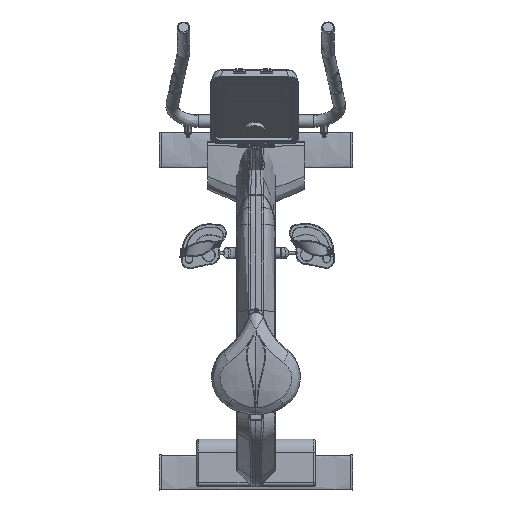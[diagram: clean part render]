
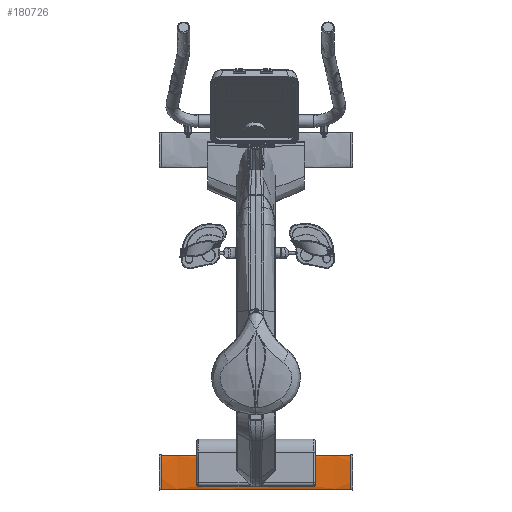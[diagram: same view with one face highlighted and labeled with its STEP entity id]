
A CAD part, top view. The second image highlights one B-rep face of the part: STEP entity #180726.
In plain terms, the highlighted free-form (B-spline) face has degree [3, 3] with [4, 4] control points.
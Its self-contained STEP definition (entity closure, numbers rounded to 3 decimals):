
#180627=CARTESIAN_POINT('',(255.563,-524.05,64.88));
#180628=VERTEX_POINT('',#180627);
#180629=CARTESIAN_POINT('',(255.563,-432.127,64.88));
#180630=VERTEX_POINT('',#180629);
#180631=CARTESIAN_POINT('',(255.563,-524.048,64.877));
#180632=CARTESIAN_POINT('',(255.563,-524.034,65.118));
#180633=CARTESIAN_POINT('',(255.563,-523.889,65.332));
#180634=CARTESIAN_POINT('',(255.563,-523.708,65.499));
#180635=CARTESIAN_POINT('',(255.563,-523.523,65.669));
#180636=CARTESIAN_POINT('',(255.563,-523.322,65.794));
#180637=CARTESIAN_POINT('',(255.563,-523.104,65.91));
#180638=CARTESIAN_POINT('',(255.563,-522.67,66.142));
#180639=CARTESIAN_POINT('',(255.563,-522.215,66.309));
#180640=CARTESIAN_POINT('',(255.563,-521.749,66.457));
#180641=CARTESIAN_POINT('',(255.563,-520.817,66.755));
#180642=CARTESIAN_POINT('',(255.563,-519.867,66.963));
#180643=CARTESIAN_POINT('',(255.563,-518.91,67.147));
#180644=CARTESIAN_POINT('',(255.563,-516.996,67.514));
#180645=CARTESIAN_POINT('',(255.563,-515.061,67.767));
#180646=CARTESIAN_POINT('',(255.563,-513.124,67.985));
#180647=CARTESIAN_POINT('',(255.563,-509.249,68.422));
#180648=CARTESIAN_POINT('',(255.563,-505.36,68.698));
#180649=CARTESIAN_POINT('',(255.563,-501.467,68.907));
#180650=CARTESIAN_POINT('',(255.563,-493.682,69.325));
#180651=CARTESIAN_POINT('',(255.563,-485.886,69.484));
#180652=CARTESIAN_POINT('',(255.563,-478.088,69.484));
#180653=CARTESIAN_POINT('',(255.563,-470.291,69.484));
#180654=CARTESIAN_POINT('',(255.563,-462.495,69.325));
#180655=CARTESIAN_POINT('',(255.563,-454.709,68.907));
#180656=CARTESIAN_POINT('',(255.563,-450.816,68.698));
#180657=CARTESIAN_POINT('',(255.563,-446.928,68.422));
#180658=CARTESIAN_POINT('',(255.563,-443.053,67.985));
#180659=CARTESIAN_POINT('',(255.563,-441.116,67.767));
#180660=CARTESIAN_POINT('',(255.563,-439.181,67.514));
#180661=CARTESIAN_POINT('',(255.563,-437.267,67.147));
#180662=CARTESIAN_POINT('',(255.563,-436.31,66.963));
#180663=CARTESIAN_POINT('',(255.563,-435.36,66.755));
#180664=CARTESIAN_POINT('',(255.563,-434.428,66.457));
#180665=CARTESIAN_POINT('',(255.563,-433.962,66.309));
#180666=CARTESIAN_POINT('',(255.563,-433.507,66.142));
#180667=CARTESIAN_POINT('',(255.563,-433.072,65.91));
#180668=CARTESIAN_POINT('',(255.563,-432.855,65.794));
#180669=CARTESIAN_POINT('',(255.563,-432.653,65.669));
#180670=CARTESIAN_POINT('',(255.563,-432.469,65.499));
#180671=CARTESIAN_POINT('',(255.563,-432.288,65.332));
#180672=CARTESIAN_POINT('',(255.563,-432.143,65.118));
#180673=CARTESIAN_POINT('',(255.563,-432.129,64.877));
#180674=B_SPLINE_CURVE_WITH_KNOTS('',3,(#180631,#180632,#180633,#180634,#180635,#180636,#180637,#180638,#180639,#180640,#180641,#180642,#180643,#180644,#180645,#180646,#180647,#180648,#180649,#180650,#180651,#180652,#180653,#180654,#180655,#180656,
#180657,#180658,#180659,#180660,#180661,#180662,#180663,#180664,#180665,#180666,#180667,#180668,#180669,#180670,#180671,#180672,#180673),.UNSPECIFIED.,.F.,.F.,(4,3,3,3,3,3,3,3,3,3,3,3,3,3,4),(0.,0.008,0.016,0.031,0.063,0.125,0.25,0.5,0.75,0.875,0.938,0.969,0.984,0.992,1.),.UNSPECIFIED.);
#180675=EDGE_CURVE('',#180628,#180630,#180674,.T.);
#180685=CARTESIAN_POINT('',(255.563,-524.051,64.884));
#180686=CARTESIAN_POINT('',(255.563,-524.051,71.012));
#180687=CARTESIAN_POINT('',(255.563,-432.125,71.012));
#180688=CARTESIAN_POINT('',(255.563,-432.125,64.884));
#180689=CARTESIAN_POINT('',(85.187,-524.051,64.884));
#180690=CARTESIAN_POINT('',(85.187,-524.051,71.012));
#180691=CARTESIAN_POINT('',(85.187,-432.125,71.012));
#180692=CARTESIAN_POINT('',(85.187,-432.125,64.884));
#180693=CARTESIAN_POINT('',(-85.19,-524.051,64.884));
#180694=CARTESIAN_POINT('',(-85.19,-524.051,71.012));
#180695=CARTESIAN_POINT('',(-85.19,-432.125,71.012));
#180696=CARTESIAN_POINT('',(-85.19,-432.125,64.884));
#180697=CARTESIAN_POINT('',(-255.566,-524.051,64.884));
#180698=CARTESIAN_POINT('',(-255.566,-524.051,71.012));
#180699=CARTESIAN_POINT('',(-255.566,-432.125,71.012));
#180700=CARTESIAN_POINT('',(-255.566,-432.125,64.884));
#180701=B_SPLINE_SURFACE_WITH_KNOTS('',3,3,((#180685,#180686,#180687,#180688),(#180689,#180690,#180691,#180692),(#180693,#180694,#180695,#180696),(#180697,#180698,#180699,#180700)),.UNSPECIFIED.,.F.,.F.,.U.,(4,4),(4,4),(0.,1.),(0.,1.),.UNSPECIFIED.);
#180702=CARTESIAN_POINT('',(-255.566,-432.126,64.88));
#180703=VERTEX_POINT('',#180702);
#180704=CARTESIAN_POINT('',(-255.566,-524.051,64.88));
#180705=VERTEX_POINT('',#180704);
#180706=CARTESIAN_POINT('',(-255.566,-432.127,64.877));
#180707=CARTESIAN_POINT('',(-255.566,-432.125,71.012));
#180708=CARTESIAN_POINT('',(-255.566,-524.051,71.012));
#180709=CARTESIAN_POINT('',(-255.566,-524.05,64.877));
#180710=B_SPLINE_CURVE_WITH_KNOTS('',3,(#180706,#180707,#180708,#180709),.UNSPECIFIED.,.F.,.F.,(4,4),(0.,1.),.UNSPECIFIED.);
#180711=EDGE_CURVE('',#180703,#180705,#180710,.T.);
#180712=ORIENTED_EDGE('',*,*,#180711,.T.);
#180713=CARTESIAN_POINT('',(255.563,-524.051,64.877));
#180714=CARTESIAN_POINT('',(-255.566,-524.051,64.877));
#180715=B_SPLINE_CURVE_WITH_KNOTS('',1,(#180713,#180714),.UNSPECIFIED.,.F.,.F.,(2,2),(0.,266.001),.UNSPECIFIED.);
#180716=EDGE_CURVE('',#180628,#180705,#180715,.T.);
#180717=ORIENTED_EDGE('',*,*,#180716,.F.);
#180718=ORIENTED_EDGE('',*,*,#180675,.T.);
#180719=CARTESIAN_POINT('',(-255.566,-432.125,64.877));
#180720=CARTESIAN_POINT('',(255.563,-432.125,64.877));
#180721=B_SPLINE_CURVE_WITH_KNOTS('',1,(#180719,#180720),.UNSPECIFIED.,.F.,.F.,(2,2),(0.,266.001),.UNSPECIFIED.);
#180722=EDGE_CURVE('',#180703,#180630,#180721,.T.);
#180723=ORIENTED_EDGE('',*,*,#180722,.F.);
#180724=EDGE_LOOP('',(#180712,#180717,#180718,#180723));
#180725=FACE_BOUND('',#180724,.T.);
#180726=ADVANCED_FACE('',(#180725),#180701,.F.);
